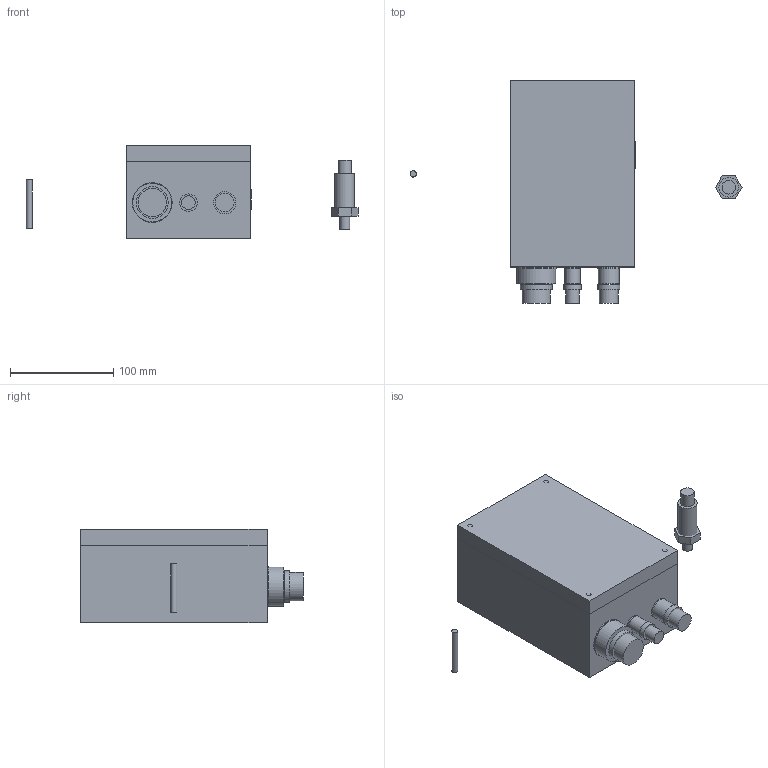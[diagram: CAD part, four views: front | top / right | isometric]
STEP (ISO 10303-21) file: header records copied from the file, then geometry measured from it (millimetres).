
FILE_DESCRIPTION(('FreeCAD Model'),'2;1');
FILE_NAME('Open CASCADE Shape Model','2026-11-16T18:56:28',('FreeCAD'),( 'FreeCAD'),'Open CASCADE STEP processor 7.8','FreeCAD','Unknown');
FILE_SCHEMA(('AUTOMOTIVE_DESIGN { 1 0 10303 214 1 1 1 1 }'));
Length unit declared in the file: millimetre
Products named in the file (1): Open CASCADE STEP translator 7.8 1
Bounding box: 320.82 x 215 x 90.5 mm (x, y, z)
Volume: 565205.6 mm3; surface area: 274481.1 mm2
Topology: 116 solids, 116 shells, 622 faces, 1140 edges, 760 vertices
Faces by surface type: plane 552, cylinder 70
Full cylindrical faces by diameter (mm): 1.8 x7, 3.3 x4, 3.4 x4, 4 x7, 4.6 x4, 5.4 x4, 6 x1, 6.8 x2, 7 x1, 9 x4, 9.6 x1, 10.8 x1, 11 x2, 11.4 x1, 12 x1, 13 x1, 13.4 x1, 14.8 x1, 15 x2, 15.4 x1, 15.8 x2, 16 x1, 16.8 x1, 17.6 x1, 18 x1, 18.9 x1, 19.6 x1, 19.8 x1, 20 x1, 20.2 x1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
Entity records: 14968 total; most frequent: DIRECTION 2526, CARTESIAN_POINT 2523, ORIENTED_EDGE 2280, EDGE_CURVE 1140, LINE 1000, VECTOR 1000, AXIS2_PLACEMENT_3D 763, VERTEX_POINT 760
